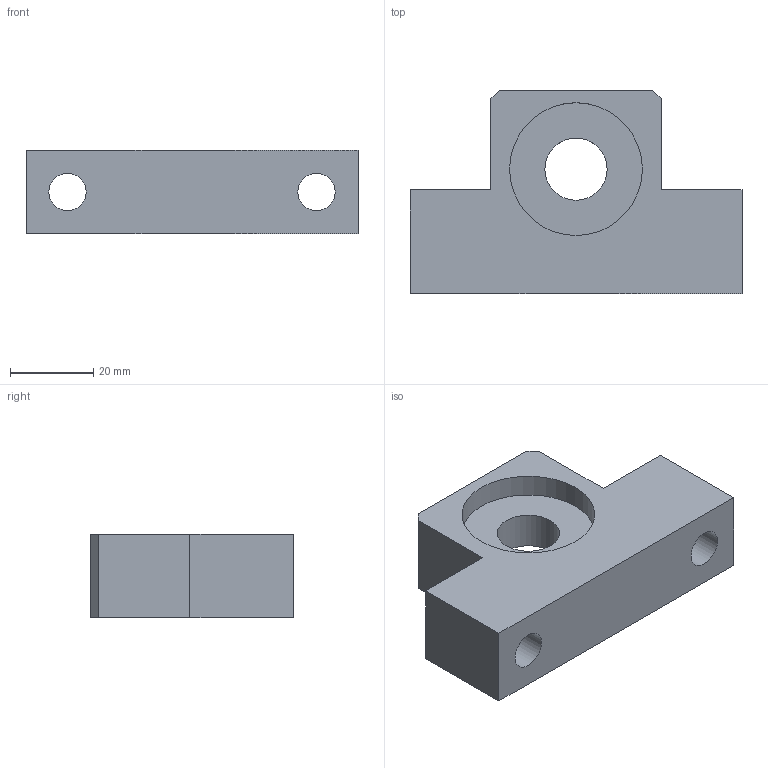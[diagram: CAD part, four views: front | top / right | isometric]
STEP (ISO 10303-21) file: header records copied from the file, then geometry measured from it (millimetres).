
FILE_DESCRIPTION(/* description */ (''),/* implementation_level */ '2;1');
FILE_NAME(/* name */ 'C:\Users\tenki620635\Desktop\官網\圖面\軸承座\3D\setp檔\EF15.stp',/* time_stamp */ '2020-11-20T18:09:34+08:00',/* author */ ('tenki620635'),/* organization */ (''),/* preprocessor_version */ 'ST-DEVELOPER v15.2',/* originating_system */ 'Autodesk Inventor 2014',/* authorisation */ '');
FILE_SCHEMA (('AUTOMOTIVE_DESIGN { 1 0 10303 214 3 1 1 }'));
Length unit declared in the file: millimetre
Products named in the file (1): EF15
Bounding box: 80 x 49 x 20 mm (x, y, z)
Volume: 45982 mm3; surface area: 13408.9 mm2
Topology: 1 solids, 1 shells, 19 faces, 47 edges, 32 vertices
Faces by surface type: plane 14, cylinder 5
Full cylindrical faces by diameter (mm): 9 x2, 15 x1, 32 x2
Entity records: 557 total; most frequent: DIRECTION 90, CARTESIAN_POINT 90, ORIENTED_EDGE 80, EDGE_CURVE 40, EDGE_LOOP 32, LINE 30, VECTOR 30, VERTEX_POINT 30
